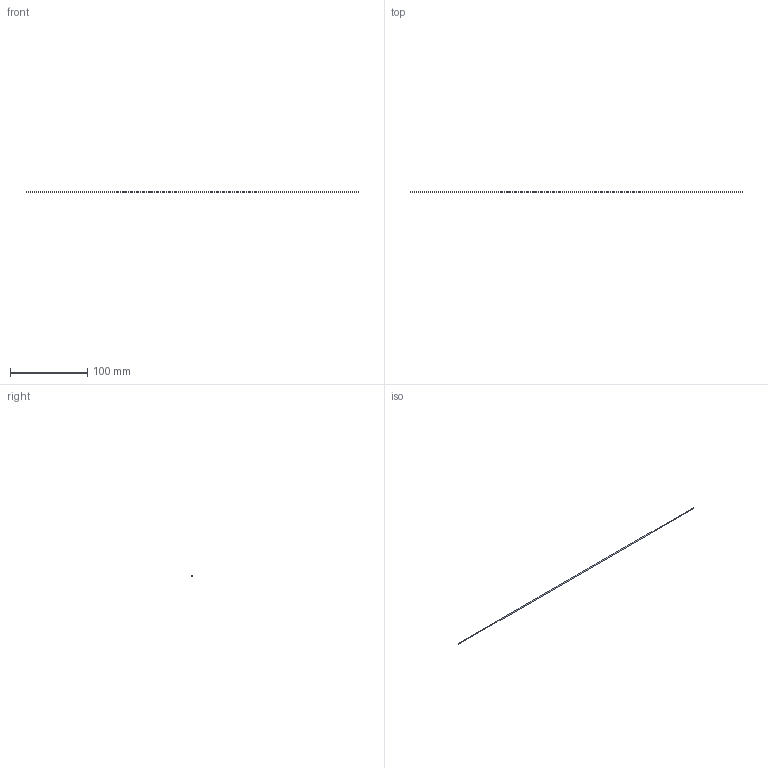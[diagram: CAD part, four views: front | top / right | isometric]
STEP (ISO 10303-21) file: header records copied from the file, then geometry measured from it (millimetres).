
FILE_DESCRIPTION(('Open CASCADE Model'),'2;1');
FILE_NAME('Open CASCADE Shape Model','2026-10-25T05:18:02',('Author'),( 'Open CASCADE'),'Open CASCADE STEP processor 7.9','Open CASCADE 7.9' ,'Unknown');
FILE_SCHEMA(('AUTOMOTIVE_DESIGN { 1 0 10303 214 1 1 1 1 }'));
Length unit declared in the file: millimetre
Products named in the file (1): Open CASCADE STEP translator 7.9 130
Bounding box: 430.5 x 1.19 x 1.2 mm (x, y, z)
Volume: 486.9 mm3; surface area: 1625.2 mm2
Topology: 1 solids, 1 shells, 3 faces, 3 edges, 2 vertices
Faces by surface type: plane 2, cylinder 1
Full cylindrical faces by diameter (mm): 1.2 x1
Entity records: 108 total; most frequent: DIRECTION 19, CARTESIAN_POINT 15, AXIS2_PLACEMENT_3D 6, ORIENTED_EDGE 6, PCURVE 6, DEFINITIONAL_REPRESENTATION 6, LINE 5, VECTOR 5
